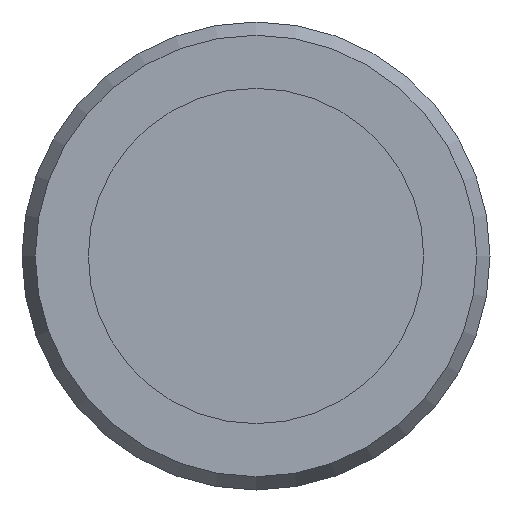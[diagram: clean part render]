
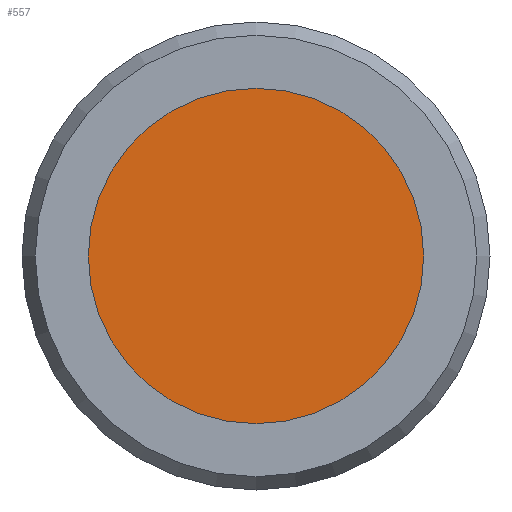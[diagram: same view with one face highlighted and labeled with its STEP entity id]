
A CAD part, left-side view. The second image highlights one B-rep face of the part: STEP entity #557.
In plain terms, the highlighted planar face has unit normal (-1, 0, 0).
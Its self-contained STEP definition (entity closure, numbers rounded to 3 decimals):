
#52=FACE_OUTER_BOUND('',#90,.T.);
#90=EDGE_LOOP('',(#377));
#171=CIRCLE('',#626,10.75);
#239=VERTEX_POINT('',#956);
#291=EDGE_CURVE('',#239,#239,#171,.T.);
#377=ORIENTED_EDGE('',*,*,#291,.T.);
#519=PLANE('',#627);
#557=ADVANCED_FACE('',(#52),#519,.T.);
#626=AXIS2_PLACEMENT_3D('',#957,#746,#747);
#627=AXIS2_PLACEMENT_3D('',#958,#748,#749);
#746=DIRECTION('center_axis',(-1.,0.,0.));
#747=DIRECTION('ref_axis',(0.,-1.,0.));
#748=DIRECTION('center_axis',(-1.,0.,0.));
#749=DIRECTION('ref_axis',(0.,0.,1.));
#956=CARTESIAN_POINT('',(-29.151,-7.794,0.));
#957=CARTESIAN_POINT('Origin',(-29.151,2.956,0.));
#958=CARTESIAN_POINT('Origin',(-29.151,2.956,0.));
